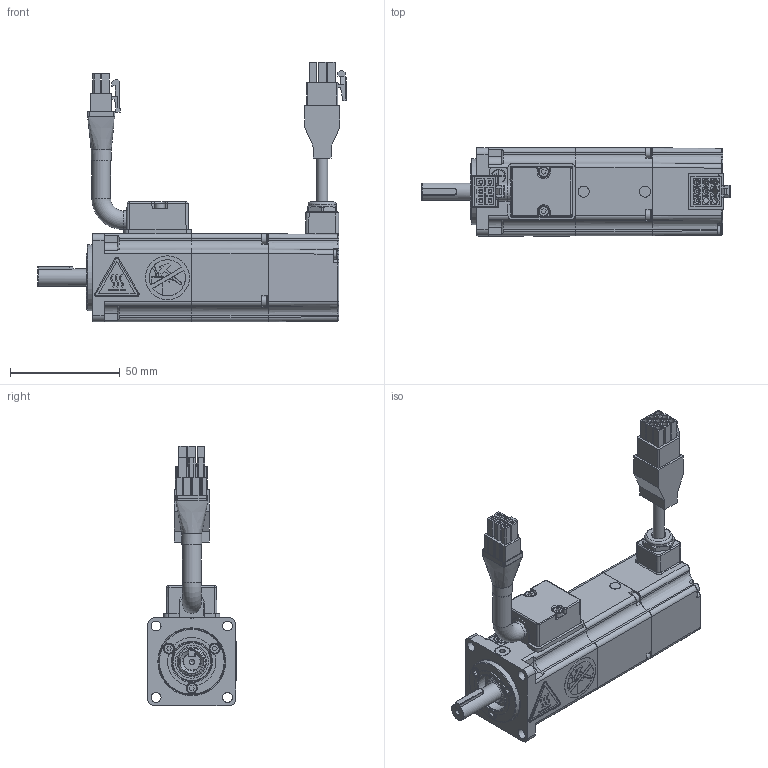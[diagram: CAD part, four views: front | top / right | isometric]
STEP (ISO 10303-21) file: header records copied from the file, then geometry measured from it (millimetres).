
FILE_DESCRIPTION(/* description */ ('AdapterTestApp'),/* implementation_level */ '2;1');
FILE_NAME(/* name */ 'TCE40 1A XX 3 A2 1 D0',/* time_stamp */ '2015-09-25T11:47:44+02:00',/* author */ ('AdapterTestApp'),/* organization */ ('Siemens PLM Software'),/* preprocessor_version */ 'ST-DEVELOPER v15.6',/* originating_system */ 'DEX',/* authorisation */ $);
FILE_SCHEMA (('AUTOMOTIVE_DESIGN {1 0 10303 214 3 1 1}'));
Products named in the file (33): TCE40 1A XX 3 A2 1 D0_vuoto; 003103001506; 005123000910; U5190003_vuoto; 003120002500; 001799000503; 005911000598; 003108015152_curva; 003303000376; 005453000452_D8,5; 007102000211; 001107000616; 003108020178_dritto; 005603001018; 003303000021; 005711000200; 005123000992; 003155000300; 005911001001; 003003199319; 003911000272; 005008000104; 005008000134; 005113000108; 005911003639; 005204000004; 005204000002; 003251022000; 005119000350; 005204000001; 005911000185
Assembly tree (45 placements, depth 4):
  TCE40 1A XX 3 A2 1 D0_vuoto
    003103001506
    005123000910
    U5190003_vuoto
      003120002500
      001799000503
      005911000598  x2
      003108015152_curva
        003108015152_curva
        003303000376
        005453000452_D8,5
    007102000211
      001107000616
      003108020178_dritto
        003108020178_dritto
        005603001018
        003303000021
        005711000200  x2
    005123000992
    003155000300
    005911001001  x4
    003003199319
    003911000272  x2
    005008000104  x2
    005008000134  x3
    005113000108
    005911003639  x3
    005204000004
    005204000002
    003251022000
    005119000350
    005204000001
    005911000185  x3
Bounding box: 140.4 x 40.4 x 118.3 mm (x, y, z)
Volume: 84299.2 mm3; surface area: 82628.9 mm2
Topology: 47 solids, 47 shells, 2027 faces, 5129 edges, 3313 vertices
Faces by surface type: plane 1306, cylinder 405, cone 107, torus 89, bspline 63, extrusion 37, sphere 20
Full cylindrical faces by diameter (mm): 2.013 x25, 2.459 x11, 2.5 x16, 2.6 x9, 2.7 x14, 4.2 x2, 4.5 x4, 4.7 x13, 5 x9, 5.2 x1, 5.3 x2, 5.5 x1, 5.99 x1, 6 x3, 6.5 x1, 7 x1, 7.2 x1, 7.99 x1, 8 x4, 8.1 x1, 8.5 x2, 8.51 x1, 9.11 x1, 9.5 x1, 10 x2, 10.16 x2, 10.3 x2, 10.647 x1, 11 x2, 11.16 x2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
Entity records: 62616 total; most frequent: CARTESIAN_POINT 17784, DIRECTION 8743, ORIENTED_EDGE 8730, EDGE_CURVE 4365, VECTOR 3121, LINE 3084, VERTEX_POINT 3002, AXIS2_PLACEMENT_3D 2811
